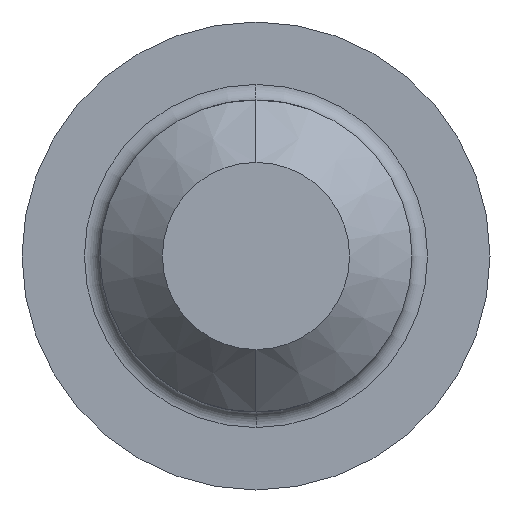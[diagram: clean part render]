
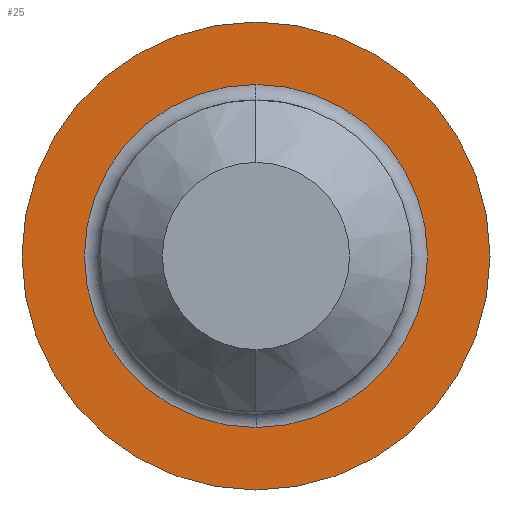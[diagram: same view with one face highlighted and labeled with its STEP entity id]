
A CAD part, left-side view. The second image highlights one B-rep face of the part: STEP entity #25.
In plain terms, the highlighted planar face has unit normal (-1, 0, 0).
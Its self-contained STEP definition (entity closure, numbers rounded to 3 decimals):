
#16 = ORIENTED_EDGE ( 'NONE', *, *, #70, .T. ) ;
#17 = EDGE_LOOP ( 'NONE', ( #16, #124 ) ) ;
#20 = ORIENTED_EDGE ( 'NONE', *, *, #102, .T. ) ;
#25 = ADVANCED_FACE ( 'NONE', ( #135, #286 ), #228, .F. ) ;
#36 = EDGE_LOOP ( 'NONE', ( #282, #20 ) ) ;
#59 = VERTEX_POINT ( 'NONE', #243 ) ;
#60 = VERTEX_POINT ( 'NONE', #167 ) ;
#70 = EDGE_CURVE ( 'NONE', #72, #77, #212, .T. ) ;
#72 = VERTEX_POINT ( 'NONE', #239 ) ;
#77 = VERTEX_POINT ( 'NONE', #150 ) ;
#102 = EDGE_CURVE ( 'NONE', #59, #60, #458, .T. ) ;
#124 = ORIENTED_EDGE ( 'NONE', *, *, #234, .T. ) ;
#135 = FACE_BOUND ( 'NONE', #36, .T. ) ;
#150 = CARTESIAN_POINT ( 'NONE',  ( 0., 0., -4.5 ) ) ;
#154 = DIRECTION ( 'NONE',  ( 0., 0., 1. ) ) ;
#155 = DIRECTION ( 'NONE',  ( -1., 0., 0. ) ) ;
#167 = CARTESIAN_POINT ( 'NONE',  ( 0., 0., -3.3 ) ) ;
#206 = CARTESIAN_POINT ( 'NONE',  ( 0., 0., 0. ) ) ;
#207 = AXIS2_PLACEMENT_3D ( 'NONE', #206, #155, #154 ) ;
#212 = CIRCLE ( 'NONE', #207, 4.5 ) ;
#223 = AXIS2_PLACEMENT_3D ( 'NONE', #281, #257, #256 ) ;
#228 = PLANE ( 'NONE',  #223 ) ;
#234 = EDGE_CURVE ( 'NONE', #77, #72, #424, .T. ) ;
#235 = EDGE_CURVE ( 'NONE', #60, #59, #423, .T. ) ;
#239 = CARTESIAN_POINT ( 'NONE',  ( 0., 0., 4.5 ) ) ;
#243 = CARTESIAN_POINT ( 'NONE',  ( 0., 0., 3.3 ) ) ;
#256 = DIRECTION ( 'NONE',  ( 0., 0., -1. ) ) ;
#257 = DIRECTION ( 'NONE',  ( 1., 0., 0. ) ) ;
#281 = CARTESIAN_POINT ( 'NONE',  ( 0., 4.5, 0. ) ) ;
#282 = ORIENTED_EDGE ( 'NONE', *, *, #235, .T. ) ;
#286 = FACE_OUTER_BOUND ( 'NONE', #17, .T. ) ;
#356 = DIRECTION ( 'NONE',  ( 0., 0., 1. ) ) ;
#357 = DIRECTION ( 'NONE',  ( -1., 0., 0. ) ) ;
#358 = CARTESIAN_POINT ( 'NONE',  ( 0., 0., 0. ) ) ;
#359 = AXIS2_PLACEMENT_3D ( 'NONE', #358, #357, #356 ) ;
#360 = CARTESIAN_POINT ( 'NONE',  ( 0., 0., 0. ) ) ;
#423 = CIRCLE ( 'NONE', #456, 3.3 ) ;
#424 = CIRCLE ( 'NONE', #359, 4.5 ) ;
#434 = DIRECTION ( 'NONE',  ( 0., 0., -1. ) ) ;
#435 = DIRECTION ( 'NONE',  ( 1., 0., 0. ) ) ;
#436 = CARTESIAN_POINT ( 'NONE',  ( 0., 0., 0. ) ) ;
#437 = AXIS2_PLACEMENT_3D ( 'NONE', #436, #435, #434 ) ;
#454 = DIRECTION ( 'NONE',  ( 0., 0., -1. ) ) ;
#455 = DIRECTION ( 'NONE',  ( 1., 0., 0. ) ) ;
#456 = AXIS2_PLACEMENT_3D ( 'NONE', #360, #455, #454 ) ;
#458 = CIRCLE ( 'NONE', #437, 3.3 ) ;
